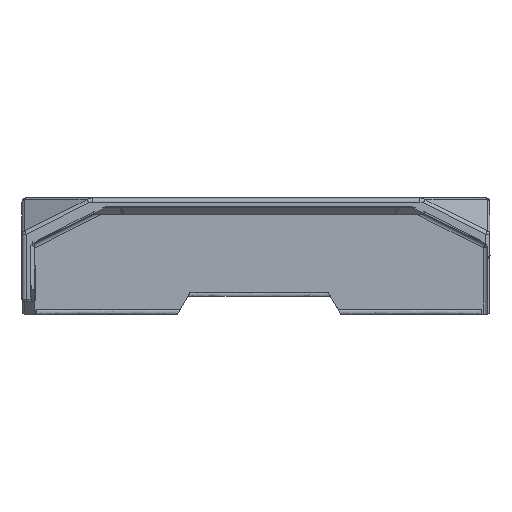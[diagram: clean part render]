
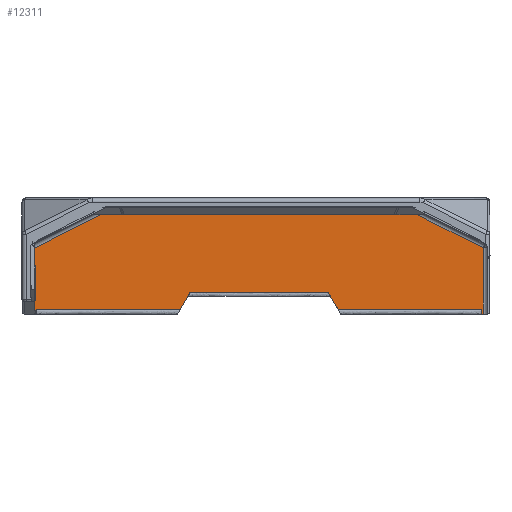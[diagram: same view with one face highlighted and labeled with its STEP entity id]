
A CAD part, left-side view. The second image highlights one B-rep face of the part: STEP entity #12311.
In plain terms, the highlighted planar face has unit normal (-1, 0, 0).
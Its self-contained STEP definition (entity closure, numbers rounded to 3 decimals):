
#7565=DIRECTION('',(0.,0.5,-0.866));
#7566=VECTOR('',#7565,3.801);
#7567=CARTESIAN_POINT('',(256.7,17.183,-21.708));
#7568=LINE('',#7567,#7566);
#7577=DIRECTION('',(0.,-1.,0.));
#7578=VECTOR('',#7577,34.615);
#7579=CARTESIAN_POINT('',(256.7,53.7,-25.));
#7580=LINE('',#7579,#7578);
#7581=DIRECTION('',(0.,0.5,0.866));
#7582=VECTOR('',#7581,1.155);
#7583=CARTESIAN_POINT('',(256.7,-17.183,-21.708));
#7584=LINE('',#7583,#7582);
#7585=DIRECTION('',(0.,1.,0.));
#7586=VECTOR('',#7585,33.212);
#7587=CARTESIAN_POINT('',(256.7,-16.606,-20.708));
#7588=LINE('',#7587,#7586);
#7589=DIRECTION('',(0.,0.5,-0.866));
#7590=VECTOR('',#7589,1.155);
#7591=CARTESIAN_POINT('',(256.7,16.606,-20.708));
#7592=LINE('',#7591,#7590);
#7593=DIRECTION('',(0.,0.,1.));
#7594=VECTOR('',#7593,1.);
#7595=CARTESIAN_POINT('',(256.7,53.7,-26.));
#7596=LINE('',#7595,#7594);
#7597=DIRECTION('',(0.,1.,0.));
#7598=VECTOR('',#7597,0.5);
#7599=CARTESIAN_POINT('',(256.7,53.7,-26.));
#7600=LINE('',#7599,#7598);
#7601=DIRECTION('',(0.,0.894,-0.447));
#7602=VECTOR('',#7601,20.298);
#7603=CARTESIAN_POINT('',(256.7,36.045,-1.));
#7604=LINE('',#7603,#7602);
#7605=DIRECTION('',(0.,-1.,0.));
#7606=VECTOR('',#7605,72.09);
#7607=CARTESIAN_POINT('',(256.7,36.045,-1.));
#7608=LINE('',#7607,#7606);
#7609=DIRECTION('',(0.,0.894,0.447));
#7610=VECTOR('',#7609,20.186);
#7611=CARTESIAN_POINT('',(256.7,-54.1,-10.028));
#7612=LINE('',#7611,#7610);
#7613=DIRECTION('',(0.,1.,0.));
#7614=VECTOR('',#7613,0.5);
#7615=CARTESIAN_POINT('',(256.7,-54.1,-26.));
#7616=LINE('',#7615,#7614);
#7617=DIRECTION('',(0.,0.,1.));
#7618=VECTOR('',#7617,1.);
#7619=CARTESIAN_POINT('',(256.7,-53.6,-26.));
#7620=LINE('',#7619,#7618);
#7629=DIRECTION('',(0.,-1.,0.));
#7630=VECTOR('',#7629,34.515);
#7631=CARTESIAN_POINT('',(256.7,-19.085,-25.));
#7632=LINE('',#7631,#7630);
#7633=DIRECTION('',(0.,-0.5,-0.866));
#7634=VECTOR('',#7633,3.801);
#7635=CARTESIAN_POINT('',(256.7,-17.183,-21.708));
#7636=LINE('',#7635,#7634);
#9294=DIRECTION('',(0.,0.,1.));
#9295=VECTOR('',#9294,15.972);
#9296=CARTESIAN_POINT('',(256.7,-54.1,-26.));
#9297=LINE('',#9296,#9295);
#9442=DIRECTION('',(0.,0.,-1.));
#9443=VECTOR('',#9442,15.922);
#9444=CARTESIAN_POINT('',(256.7,54.2,-10.078));
#9445=LINE('',#9444,#9443);
#11410=CARTESIAN_POINT('',(256.7,-54.1,-26.));
#11411=VERTEX_POINT('',#11410);
#11450=CARTESIAN_POINT('',(256.7,36.045,-1.));
#11451=VERTEX_POINT('',#11450);
#11452=CARTESIAN_POINT('',(256.7,54.2,-10.078));
#11453=VERTEX_POINT('',#11452);
#11455=CARTESIAN_POINT('',(256.7,-54.1,-10.028));
#11457=VERTEX_POINT('',#11455);
#11462=CARTESIAN_POINT('',(256.7,-36.045,-1.));
#11463=VERTEX_POINT('',#11462);
#11472=CARTESIAN_POINT('',(256.7,54.2,-26.));
#11473=VERTEX_POINT('',#11472);
#11474=CARTESIAN_POINT('',(256.7,-53.6,-26.));
#11476=VERTEX_POINT('',#11474);
#11479=CARTESIAN_POINT('',(256.7,53.7,-26.));
#11481=VERTEX_POINT('',#11479);
#11482=CARTESIAN_POINT('',(256.7,-17.183,-21.708));
#11483=CARTESIAN_POINT('',(256.7,17.183,-21.708));
#11484=VERTEX_POINT('',#11482);
#11485=VERTEX_POINT('',#11483);
#11486=CARTESIAN_POINT('',(256.7,-53.6,-25.));
#11487=VERTEX_POINT('',#11486);
#11488=CARTESIAN_POINT('',(256.7,53.7,-25.));
#11489=VERTEX_POINT('',#11488);
#11703=CARTESIAN_POINT('',(256.7,19.085,-25.));
#11704=VERTEX_POINT('',#11703);
#11705=CARTESIAN_POINT('',(256.7,-19.085,-25.));
#11706=VERTEX_POINT('',#11705);
#11707=CARTESIAN_POINT('',(256.7,16.606,-20.708));
#11708=VERTEX_POINT('',#11707);
#11709=CARTESIAN_POINT('',(256.7,-16.606,-20.708));
#11710=VERTEX_POINT('',#11709);
#12278=CARTESIAN_POINT('',(256.7,-35.,-1.));
#12279=DIRECTION('',(1.,0.,0.));
#12280=DIRECTION('',(0.,1.,0.));
#12281=AXIS2_PLACEMENT_3D('',#12278,#12279,#12280);
#12282=PLANE('',#12281);
#12284=ORIENTED_EDGE('',*,*,#12283,.F.);
#12286=ORIENTED_EDGE('',*,*,#12285,.F.);
#12288=ORIENTED_EDGE('',*,*,#12287,.T.);
#12290=ORIENTED_EDGE('',*,*,#12289,.T.);
#12292=ORIENTED_EDGE('',*,*,#12291,.T.);
#12293=ORIENTED_EDGE('',*,*,#12253,.T.);
#12294=ORIENTED_EDGE('',*,*,#12269,.F.);
#12296=ORIENTED_EDGE('',*,*,#12295,.F.);
#12297=ORIENTED_EDGE('',*,*,#12106,.T.);
#12299=ORIENTED_EDGE('',*,*,#12298,.F.);
#12300=ORIENTED_EDGE('',*,*,#11879,.F.);
#12301=ORIENTED_EDGE('',*,*,#11853,.T.);
#12303=ORIENTED_EDGE('',*,*,#12302,.F.);
#12305=ORIENTED_EDGE('',*,*,#12304,.F.);
#12306=ORIENTED_EDGE('',*,*,#12130,.T.);
#12308=ORIENTED_EDGE('',*,*,#12307,.T.);
#12309=EDGE_LOOP('',(#12284,#12286,#12288,#12290,#12292,#12293,#12294,#12296,
#12297,#12299,#12300,#12301,#12303,#12305,#12306,#12308));
#12310=FACE_OUTER_BOUND('',#12309,.F.);
#12311=ADVANCED_FACE('',(#12310),#12282,.F.);
#11853=EDGE_CURVE('',#11451,#11463,#7608,.T.);
#11879=EDGE_CURVE('',#11451,#11453,#7604,.T.);
#12106=EDGE_CURVE('',#11481,#11473,#7600,.T.);
#12130=EDGE_CURVE('',#11411,#11476,#7616,.T.);
#12253=EDGE_CURVE('',#11485,#11704,#7568,.T.);
#12269=EDGE_CURVE('',#11489,#11704,#7580,.T.);
#12283=EDGE_CURVE('',#11706,#11487,#7632,.T.);
#12285=EDGE_CURVE('',#11484,#11706,#7636,.T.);
#12287=EDGE_CURVE('',#11484,#11710,#7584,.T.);
#12289=EDGE_CURVE('',#11710,#11708,#7588,.T.);
#12291=EDGE_CURVE('',#11708,#11485,#7592,.T.);
#12295=EDGE_CURVE('',#11481,#11489,#7596,.T.);
#12298=EDGE_CURVE('',#11453,#11473,#9445,.T.);
#12302=EDGE_CURVE('',#11457,#11463,#7612,.T.);
#12304=EDGE_CURVE('',#11411,#11457,#9297,.T.);
#12307=EDGE_CURVE('',#11476,#11487,#7620,.T.);
